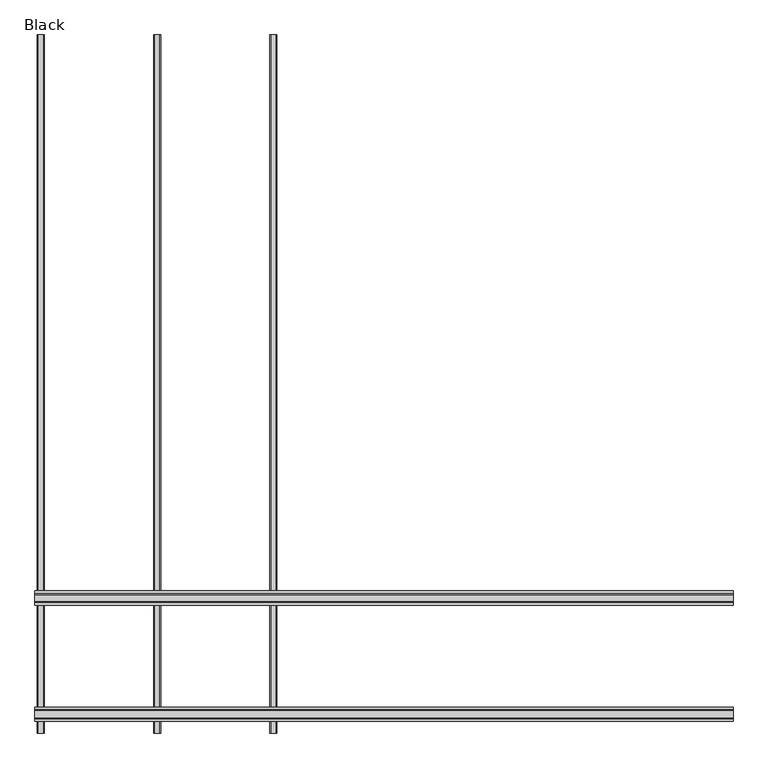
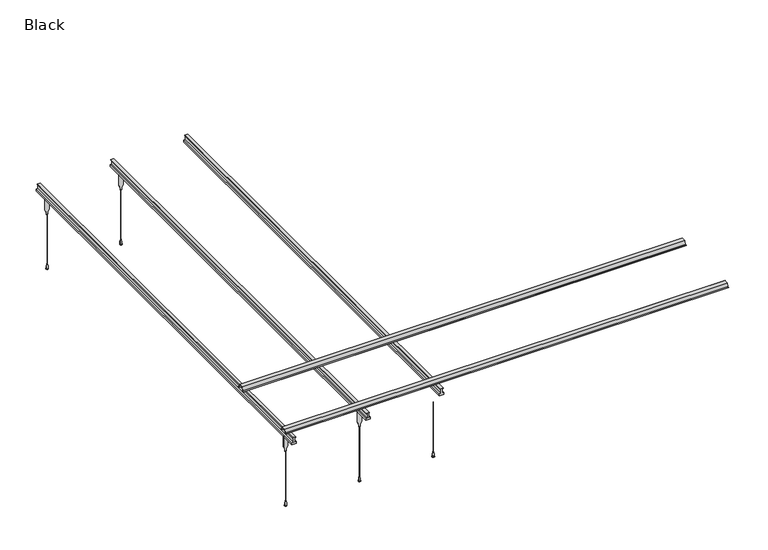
"""IFC4 building model written with IfcOpenShell, lengths in millimetres: proxy geometry, MountingTrack_Soffit_Modinex : Black."""

from ifc_helpers import new_model, si_unit, point, frame, frame_2d, origin, place, context, project, spatial, polyline, circle_curve, ellipse_curve, trimmed, segment, composite_curve, outline, extrude, source, transform, mapped, element, save
from ifc_brep_helpers import plane_surface, cylinder_surface, revolved_surface, advanced_brep


def black_515c670e(model_context):
    return source(origin(), model_context, "Body", "SolidModel", [
        advanced_brep(
        [(-477.0, -1400.0, 35.0), (-473.0, -1400.0, 35.0), (-475.0, -1400.0, 35.0), (-475.0, -1400.0, 0.0), (-466.9999996, -1400.0, 0.0), (-483.0000004, -1400.0, 0.0), (-466.9999996, -1400.0, 2.5000013), (-483.0000004, -1400.0, 2.5000013), (-470.5000002, -1400.0, 2.5000013), (-479.4999998, -1400.0, 2.5000013), (-470.5000002, -1400.0, 5.5), (-479.4999998, -1400.0, 5.5), (-468.9999999, -1400.0, 5.5), (-481.0000001, -1400.0, 5.5), (-472.0, -1400.0, 29.9999993), (-478.0, -1400.0, 29.9999993), (-473.0, -1400.0, 29.9999993), (-477.0, -1400.0, 29.9999993)],
        [
            (0, 1, circle_curve(frame((-475.0, -1400.0, 35.0), z_axis=(0.0, 0.0, 1.0), x_axis=(1.0, 0.0, 0.0)), 2.0)),
            (1, 2),
            (2, 0),
            (1, 0, circle_curve(frame((-475.0, -1400.0, 35.0), z_axis=(0.0, 0.0, 1.0), x_axis=(1.0, 0.0, 0.0)), 2.0)),
            (3, 4),
            (4, 5, circle_curve(frame((-475.0, -1400.0, 0.0), z_axis=(0.0, 0.0, -1.0), x_axis=(1.0, 0.0, 0.0)), 8.0000004)),
            (5, 3),
            (5, 4, circle_curve(frame((-475.0, -1400.0, 0.0), z_axis=(0.0, 0.0, -1.0), x_axis=(1.0, 0.0, 0.0)), 8.0000004)),
            (4, 6),
            (6, 7, circle_curve(frame((-475.0, -1400.0, 2.5000013), z_axis=(0.0, 0.0, -1.0), x_axis=(1.0, 0.0, 0.0)), 8.0000004)),
            (7, 5),
            (7, 6, circle_curve(frame((-475.0, -1400.0, 2.5000013), z_axis=(0.0, 0.0, -1.0), x_axis=(1.0, 0.0, 0.0)), 8.0000004)),
            (6, 8),
            (8, 9, circle_curve(frame((-475.0, -1400.0, 2.5000013), z_axis=(0.0, 0.0, -1.0), x_axis=(1.0, 0.0, 0.0)), 4.4999998)),
            (9, 7),
            (9, 8, circle_curve(frame((-475.0, -1400.0, 2.5000013), z_axis=(0.0, 0.0, -1.0), x_axis=(1.0, 0.0, 0.0)), 4.4999998)),
            (8, 10),
            (10, 11, circle_curve(frame((-475.0, -1400.0, 5.5), z_axis=(0.0, 0.0, -1.0), x_axis=(1.0, 0.0, 0.0)), 4.4999998)),
            (11, 9),
            (11, 10, circle_curve(frame((-475.0, -1400.0, 5.5), z_axis=(0.0, 0.0, -1.0), x_axis=(1.0, 0.0, 0.0)), 4.4999998)),
            (10, 12),
            (12, 13, circle_curve(frame((-475.0, -1400.0, 5.5), z_axis=(0.0, 0.0, -1.0), x_axis=(1.0, 0.0, 0.0)), 6.0000001)),
            (13, 11),
            (13, 12, circle_curve(frame((-475.0, -1400.0, 5.5), z_axis=(0.0, 0.0, -1.0), x_axis=(1.0, 0.0, 0.0)), 6.0000001)),
            (12, 14, circle_curve(frame((-570.5416345, -1400.0, 5.5000032), z_axis=(0.0, -1.0, 0.0), x_axis=(-1.0, 0.0, 0.0)), 101.5416345)),
            (14, 15, circle_curve(frame((-475.0, -1400.0, 29.9999993), z_axis=(0.0, 0.0, -1.0), x_axis=(1.0, 0.0, 0.0)), 3.0)),
            (15, 13, circle_curve(frame((-379.4583655, -1400.0, 5.5000032), z_axis=(0.0, -1.0, 0.0), x_axis=(1.0, 0.0, 0.0)), 101.5416345)),
            (15, 14, circle_curve(frame((-475.0, -1400.0, 29.9999993), z_axis=(0.0, 0.0, -1.0), x_axis=(1.0, 0.0, 0.0)), 3.0)),
            (14, 16),
            (16, 17, circle_curve(frame((-475.0, -1400.0, 29.9999993), z_axis=(0.0, 0.0, -1.0), x_axis=(1.0, 0.0, 0.0)), 2.0)),
            (17, 15),
            (17, 16, circle_curve(frame((-475.0, -1400.0, 29.9999993), z_axis=(0.0, 0.0, -1.0), x_axis=(1.0, 0.0, 0.0)), 2.0)),
            (16, 1),
            (0, 17),
        ],
        [
            plane_surface(frame((-475.0, -1400.0, 35.0), z_axis=(0.0, 0.0, 1.0), x_axis=(1.0, 0.0, 0.0))),
            plane_surface(frame((-475.0, -1400.0, 0.0), z_axis=(0.0, 0.0, -1.0), x_axis=(1.0, 0.0, 0.0))),
            cylinder_surface(frame((-475.0, -1400.0, -15.1208873), z_axis=(0.0, 0.0, -1.0), x_axis=(1.0, 0.0, 0.0)), 8.0000004),
            plane_surface(frame((-475.0, -1400.0, 2.5000013), z_axis=(0.0, 0.0, 1.0), x_axis=(1.0, 0.0, 0.0))),
            cylinder_surface(frame((-475.0, -1400.0, -15.1208873), z_axis=(0.0, 0.0, -1.0), x_axis=(1.0, 0.0, 0.0)), 4.4999998),
            plane_surface(frame((-475.0, -1400.0, 5.5), z_axis=(0.0, 0.0, -1.0), x_axis=(1.0, 0.0, 0.0))),
            revolved_surface(trimmed(ellipse_curve(frame((-570.5416345, -1400.0, 5.5000032), z_axis=(0.0, 1.0, 0.0), x_axis=(-1.0, 0.0, 0.0)), 101.5416345, 101.5416345), [point((-472.0, -1400.0, 29.9999993))], [point((-468.9999999, -1400.0, 5.5))], True, "CARTESIAN"), (-475.0, -1400.0, -15.1208873), (0.0, 0.0, -1.0)),
            plane_surface(frame((-475.0, -1400.0, 29.9999993), z_axis=(0.0, 0.0, 1.0), x_axis=(1.0, 0.0, 0.0))),
            cylinder_surface(frame((-475.0, -1400.0, -15.1208873), z_axis=(0.0, 0.0, -1.0), x_axis=(1.0, 0.0, 0.0)), 2.0),
        ],
        [
            (0, [[1, 2, 3]]),
            (0, [[4, -3, -2]]),
            (1, [[5, 6, 7]]),
            (1, [[-7, 8, -5]]),
            (2, [[-6, 9, 10, 11]]),
            (2, [[-8, -11, 12, -9]]),
            (3, [[-10, 13, 14, 15]]),
            (3, [[-12, -15, 16, -13]]),
            (4, [[-14, 17, 18, 19]]),
            (4, [[-16, -19, 20, -17]]),
            (5, [[-18, 21, 22, 23]]),
            (5, [[-20, -23, 24, -21]]),
            (6, [[-22, 25, 26, 27]]),
            (6, [[-24, -27, 28, -25]]),
            (7, [[-26, 29, 30, 31]]),
            (7, [[-28, -31, 32, -29]]),
            (8, [[-30, 33, -1, 34]]),
            (8, [[-32, -34, -4, -33]]),
        ],
    ),
        extrude(outline(composite_curve([segment(trimmed(circle_curve(frame_2d((-475.0, -1400.0)), 0.65), [point((-474.35, -1400.0))], [point((-475.65, -1400.0))], False, "CARTESIAN"), True, "CONTINUOUS"), segment(trimmed(circle_curve(frame_2d((-475.0, -1400.0)), 0.65), [point((-475.65, -1400.0))], [point((-474.35, -1400.0))], False, "CARTESIAN"), True, "CONTINUOUS")], self_intersect=False)), frame((0.0, 0.0, 35.0), z_axis=(0.0, 0.0, 1.0), x_axis=(1.0, 0.0, 0.0)), (0.0, 0.0, 1.0), 355.0),
        extrude(outline(polyline([(545.0, -465.0), (550.0, -465.0), (550.0, -485.0), (545.0, -485.0), (545.0, -480.0), (515.0, -480.0), (515.0, -490.0), (500.0, -490.0), (500.0, -460.0), (515.0, -460.0), (515.0, -470.0), (545.0, -470.0), (545.0, -465.0)])), frame((0.0, -1500.0, 0.0), z_axis=(0.0, 1.0, 0.0), x_axis=(0.0, 0.0, 1.0)), (0.0, 0.0, 1.0), 3000.0),
        extrude(outline(polyline([(-933.2890638, 574.0), (-904.7109362, 574.0), (-899.2109362, 551.0), (-888.0, 551.0), (-888.0, 550.0), (-900.0, 550.0), (-905.5, 573.0), (-932.5, 573.0), (-938.0, 550.0), (-950.0, 550.0), (-950.0, 551.0), (-938.7890638, 551.0), (-933.2890638, 574.0)])), frame((-1500.0, 0.0, 0.0), z_axis=(1.0, 0.0, 0.0), x_axis=(0.0, 1.0, 0.0)), (0.0, 0.0, 1.0), 3000.0),
        extrude(outline(polyline([(-1433.2890638, 574.0), (-1404.7109362, 574.0), (-1399.2109362, 551.0), (-1388.0, 551.0), (-1388.0, 550.0), (-1400.0, 550.0), (-1405.5, 573.0), (-1432.5, 573.0), (-1438.0, 550.0), (-1450.0, 550.0), (-1450.0, 551.0), (-1438.7890638, 551.0), (-1433.2890638, 574.0)])), frame((-1500.0, 0.0, 0.0), z_axis=(1.0, 0.0, 0.0), x_axis=(0.0, 1.0, 0.0)), (0.0, 0.0, 1.0), 3000.0),
        extrude(outline(polyline([(390.0, -970.0), (405.0, -970.0), (425.0, -960.0), (500.0, -960.0), (500.0, -990.0), (425.0, -990.0), (405.0, -980.0), (390.0, -980.0), (390.0, -970.0)])), frame((0.0, 1399.0, 0.0), z_axis=(0.0, 1.0, 0.0), x_axis=(0.0, 0.0, 1.0)), (0.0, 0.0, 1.0), 2.0),
        advanced_brep(
        [(-977.0, 1400.0, 35.0), (-973.0, 1400.0, 35.0), (-975.0, 1400.0, 35.0), (-975.0, 1400.0, 0.0), (-966.9999996, 1400.0, 0.0), (-983.0000004, 1400.0, 0.0), (-966.9999996, 1400.0, 2.5000013), (-983.0000004, 1400.0, 2.5000013), (-970.5000002, 1400.0, 2.5000013), (-979.4999998, 1400.0, 2.5000013), (-970.5000002, 1400.0, 5.5), (-979.4999998, 1400.0, 5.5), (-968.9999999, 1400.0, 5.5), (-981.0000001, 1400.0, 5.5), (-972.0, 1400.0, 29.9999993), (-978.0, 1400.0, 29.9999993), (-973.0, 1400.0, 29.9999993), (-977.0, 1400.0, 29.9999993)],
        [
            (0, 1, circle_curve(frame((-975.0, 1400.0, 35.0), z_axis=(0.0, 0.0, 1.0), x_axis=(1.0, 0.0, 0.0)), 2.0)),
            (1, 2),
            (2, 0),
            (1, 0, circle_curve(frame((-975.0, 1400.0, 35.0), z_axis=(0.0, 0.0, 1.0), x_axis=(1.0, 0.0, 0.0)), 2.0)),
            (3, 4),
            (4, 5, circle_curve(frame((-975.0, 1400.0, 0.0), z_axis=(0.0, 0.0, -1.0), x_axis=(1.0, 0.0, 0.0)), 8.0000004)),
            (5, 3),
            (5, 4, circle_curve(frame((-975.0, 1400.0, 0.0), z_axis=(0.0, 0.0, -1.0), x_axis=(1.0, 0.0, 0.0)), 8.0000004)),
            (4, 6),
            (6, 7, circle_curve(frame((-975.0, 1400.0, 2.5000013), z_axis=(0.0, 0.0, -1.0), x_axis=(1.0, 0.0, 0.0)), 8.0000004)),
            (7, 5),
            (7, 6, circle_curve(frame((-975.0, 1400.0, 2.5000013), z_axis=(0.0, 0.0, -1.0), x_axis=(1.0, 0.0, 0.0)), 8.0000004)),
            (6, 8),
            (8, 9, circle_curve(frame((-975.0, 1400.0, 2.5000013), z_axis=(0.0, 0.0, -1.0), x_axis=(1.0, 0.0, 0.0)), 4.4999998)),
            (9, 7),
            (9, 8, circle_curve(frame((-975.0, 1400.0, 2.5000013), z_axis=(0.0, 0.0, -1.0), x_axis=(1.0, 0.0, 0.0)), 4.4999998)),
            (8, 10),
            (10, 11, circle_curve(frame((-975.0, 1400.0, 5.5), z_axis=(0.0, 0.0, -1.0), x_axis=(1.0, 0.0, 0.0)), 4.4999998)),
            (11, 9),
            (11, 10, circle_curve(frame((-975.0, 1400.0, 5.5), z_axis=(0.0, 0.0, -1.0), x_axis=(1.0, 0.0, 0.0)), 4.4999998)),
            (10, 12),
            (12, 13, circle_curve(frame((-975.0, 1400.0, 5.5), z_axis=(0.0, 0.0, -1.0), x_axis=(1.0, 0.0, 0.0)), 6.0000001)),
            (13, 11),
            (13, 12, circle_curve(frame((-975.0, 1400.0, 5.5), z_axis=(0.0, 0.0, -1.0), x_axis=(1.0, 0.0, 0.0)), 6.0000001)),
            (12, 14, circle_curve(frame((-1070.5416345, 1400.0, 5.5000032), z_axis=(0.0, -1.0, 0.0), x_axis=(-1.0, 0.0, 0.0)), 101.5416345)),
            (14, 15, circle_curve(frame((-975.0, 1400.0, 29.9999993), z_axis=(0.0, 0.0, -1.0), x_axis=(1.0, 0.0, 0.0)), 3.0)),
            (15, 13, circle_curve(frame((-879.4583655, 1400.0, 5.5000032), z_axis=(0.0, -1.0, 0.0), x_axis=(1.0, 0.0, 0.0)), 101.5416345)),
            (15, 14, circle_curve(frame((-975.0, 1400.0, 29.9999993), z_axis=(0.0, 0.0, -1.0), x_axis=(1.0, 0.0, 0.0)), 3.0)),
            (14, 16),
            (16, 17, circle_curve(frame((-975.0, 1400.0, 29.9999993), z_axis=(0.0, 0.0, -1.0), x_axis=(1.0, 0.0, 0.0)), 2.0)),
            (17, 15),
            (17, 16, circle_curve(frame((-975.0, 1400.0, 29.9999993), z_axis=(0.0, 0.0, -1.0), x_axis=(1.0, 0.0, 0.0)), 2.0)),
            (16, 1),
            (0, 17),
        ],
        [
            plane_surface(frame((-975.0, 1400.0, 35.0), z_axis=(0.0, 0.0, 1.0), x_axis=(1.0, 0.0, 0.0))),
            plane_surface(frame((-975.0, 1400.0, 0.0), z_axis=(0.0, 0.0, -1.0), x_axis=(1.0, 0.0, 0.0))),
            cylinder_surface(frame((-975.0, 1400.0, -15.1208873), z_axis=(0.0, 0.0, -1.0), x_axis=(1.0, 0.0, 0.0)), 8.0000004),
            plane_surface(frame((-975.0, 1400.0, 2.5000013), z_axis=(0.0, 0.0, 1.0), x_axis=(1.0, 0.0, 0.0))),
            cylinder_surface(frame((-975.0, 1400.0, -15.1208873), z_axis=(0.0, 0.0, -1.0), x_axis=(1.0, 0.0, 0.0)), 4.4999998),
            plane_surface(frame((-975.0, 1400.0, 5.5), z_axis=(0.0, 0.0, -1.0), x_axis=(1.0, 0.0, 0.0))),
            revolved_surface(trimmed(ellipse_curve(frame((-1070.5416345, 1400.0, 5.5000032), z_axis=(0.0, 1.0, 0.0), x_axis=(-1.0, 0.0, 0.0)), 101.5416345, 101.5416345), [point((-972.0, 1400.0, 29.9999993))], [point((-968.9999999, 1400.0, 5.5))], True, "CARTESIAN"), (-975.0, 1400.0, -15.1208873), (0.0, 0.0, -1.0)),
            plane_surface(frame((-975.0, 1400.0, 29.9999993), z_axis=(0.0, 0.0, 1.0), x_axis=(1.0, 0.0, 0.0))),
            cylinder_surface(frame((-975.0, 1400.0, -15.1208873), z_axis=(0.0, 0.0, -1.0), x_axis=(1.0, 0.0, 0.0)), 2.0),
        ],
        [
            (0, [[1, 2, 3]]),
            (0, [[4, -3, -2]]),
            (1, [[5, 6, 7]]),
            (1, [[-7, 8, -5]]),
            (2, [[-6, 9, 10, 11]]),
            (2, [[-8, -11, 12, -9]]),
            (3, [[-10, 13, 14, 15]]),
            (3, [[-12, -15, 16, -13]]),
            (4, [[-14, 17, 18, 19]]),
            (4, [[-16, -19, 20, -17]]),
            (5, [[-18, 21, 22, 23]]),
            (5, [[-20, -23, 24, -21]]),
            (6, [[-22, 25, 26, 27]]),
            (6, [[-24, -27, 28, -25]]),
            (7, [[-26, 29, 30, 31]]),
            (7, [[-28, -31, 32, -29]]),
            (8, [[-30, 33, -1, 34]]),
            (8, [[-32, -34, -4, -33]]),
        ],
    ),
        extrude(outline(composite_curve([segment(trimmed(circle_curve(frame_2d((-975.0, 1400.0)), 0.65), [point((-974.35, 1400.0))], [point((-975.65, 1400.0))], False, "CARTESIAN"), True, "CONTINUOUS"), segment(trimmed(circle_curve(frame_2d((-975.0, 1400.0)), 0.65), [point((-975.65, 1400.0))], [point((-974.35, 1400.0))], False, "CARTESIAN"), True, "CONTINUOUS")], self_intersect=False)), frame((0.0, 0.0, 35.0), z_axis=(0.0, 0.0, 1.0), x_axis=(1.0, 0.0, 0.0)), (0.0, 0.0, 1.0), 355.0),
        extrude(outline(polyline([(390.0, -970.0), (405.0, -970.0), (425.0, -960.0), (500.0, -960.0), (500.0, -990.0), (425.0, -990.0), (405.0, -980.0), (390.0, -980.0), (390.0, -970.0)])), frame((0.0, -1401.0, 0.0), z_axis=(0.0, 1.0, 0.0), x_axis=(0.0, 0.0, 1.0)), (0.0, 0.0, 1.0), 2.0),
        advanced_brep(
        [(-977.0, -1400.0, 35.0), (-973.0, -1400.0, 35.0), (-975.0, -1400.0, 35.0), (-975.0, -1400.0, 0.0), (-966.9999996, -1400.0, 0.0), (-983.0000004, -1400.0, 0.0), (-966.9999996, -1400.0, 2.5000013), (-983.0000004, -1400.0, 2.5000013), (-970.5000002, -1400.0, 2.5000013), (-979.4999998, -1400.0, 2.5000013), (-970.5000002, -1400.0, 5.5), (-979.4999998, -1400.0, 5.5), (-968.9999999, -1400.0, 5.5), (-981.0000001, -1400.0, 5.5), (-972.0, -1400.0, 29.9999993), (-978.0, -1400.0, 29.9999993), (-973.0, -1400.0, 29.9999993), (-977.0, -1400.0, 29.9999993)],
        [
            (0, 1, circle_curve(frame((-975.0, -1400.0, 35.0), z_axis=(0.0, 0.0, 1.0), x_axis=(1.0, 0.0, 0.0)), 2.0)),
            (1, 2),
            (2, 0),
            (1, 0, circle_curve(frame((-975.0, -1400.0, 35.0), z_axis=(0.0, 0.0, 1.0), x_axis=(1.0, 0.0, 0.0)), 2.0)),
            (3, 4),
            (4, 5, circle_curve(frame((-975.0, -1400.0, 0.0), z_axis=(0.0, 0.0, -1.0), x_axis=(1.0, 0.0, 0.0)), 8.0000004)),
            (5, 3),
            (5, 4, circle_curve(frame((-975.0, -1400.0, 0.0), z_axis=(0.0, 0.0, -1.0), x_axis=(1.0, 0.0, 0.0)), 8.0000004)),
            (4, 6),
            (6, 7, circle_curve(frame((-975.0, -1400.0, 2.5000013), z_axis=(0.0, 0.0, -1.0), x_axis=(1.0, 0.0, 0.0)), 8.0000004)),
            (7, 5),
            (7, 6, circle_curve(frame((-975.0, -1400.0, 2.5000013), z_axis=(0.0, 0.0, -1.0), x_axis=(1.0, 0.0, 0.0)), 8.0000004)),
            (6, 8),
            (8, 9, circle_curve(frame((-975.0, -1400.0, 2.5000013), z_axis=(0.0, 0.0, -1.0), x_axis=(1.0, 0.0, 0.0)), 4.4999998)),
            (9, 7),
            (9, 8, circle_curve(frame((-975.0, -1400.0, 2.5000013), z_axis=(0.0, 0.0, -1.0), x_axis=(1.0, 0.0, 0.0)), 4.4999998)),
            (8, 10),
            (10, 11, circle_curve(frame((-975.0, -1400.0, 5.5), z_axis=(0.0, 0.0, -1.0), x_axis=(1.0, 0.0, 0.0)), 4.4999998)),
            (11, 9),
            (11, 10, circle_curve(frame((-975.0, -1400.0, 5.5), z_axis=(0.0, 0.0, -1.0), x_axis=(1.0, 0.0, 0.0)), 4.4999998)),
            (10, 12),
            (12, 13, circle_curve(frame((-975.0, -1400.0, 5.5), z_axis=(0.0, 0.0, -1.0), x_axis=(1.0, 0.0, 0.0)), 6.0000001)),
            (13, 11),
            (13, 12, circle_curve(frame((-975.0, -1400.0, 5.5), z_axis=(0.0, 0.0, -1.0), x_axis=(1.0, 0.0, 0.0)), 6.0000001)),
            (12, 14, circle_curve(frame((-1070.5416345, -1400.0, 5.5000032), z_axis=(0.0, -1.0, 0.0), x_axis=(-1.0, 0.0, 0.0)), 101.5416345)),
            (14, 15, circle_curve(frame((-975.0, -1400.0, 29.9999993), z_axis=(0.0, 0.0, -1.0), x_axis=(1.0, 0.0, 0.0)), 3.0)),
            (15, 13, circle_curve(frame((-879.4583655, -1400.0, 5.5000032), z_axis=(0.0, -1.0, 0.0), x_axis=(1.0, 0.0, 0.0)), 101.5416345)),
            (15, 14, circle_curve(frame((-975.0, -1400.0, 29.9999993), z_axis=(0.0, 0.0, -1.0), x_axis=(1.0, 0.0, 0.0)), 3.0)),
            (14, 16),
            (16, 17, circle_curve(frame((-975.0, -1400.0, 29.9999993), z_axis=(0.0, 0.0, -1.0), x_axis=(1.0, 0.0, 0.0)), 2.0)),
            (17, 15),
            (17, 16, circle_curve(frame((-975.0, -1400.0, 29.9999993), z_axis=(0.0, 0.0, -1.0), x_axis=(1.0, 0.0, 0.0)), 2.0)),
            (16, 1),
            (0, 17),
        ],
        [
            plane_surface(frame((-975.0, -1400.0, 35.0), z_axis=(0.0, 0.0, 1.0), x_axis=(1.0, 0.0, 0.0))),
            plane_surface(frame((-975.0, -1400.0, 0.0), z_axis=(0.0, 0.0, -1.0), x_axis=(1.0, 0.0, 0.0))),
            cylinder_surface(frame((-975.0, -1400.0, -15.1208873), z_axis=(0.0, 0.0, -1.0), x_axis=(1.0, 0.0, 0.0)), 8.0000004),
            plane_surface(frame((-975.0, -1400.0, 2.5000013), z_axis=(0.0, 0.0, 1.0), x_axis=(1.0, 0.0, 0.0))),
            cylinder_surface(frame((-975.0, -1400.0, -15.1208873), z_axis=(0.0, 0.0, -1.0), x_axis=(1.0, 0.0, 0.0)), 4.4999998),
            plane_surface(frame((-975.0, -1400.0, 5.5), z_axis=(0.0, 0.0, -1.0), x_axis=(1.0, 0.0, 0.0))),
            revolved_surface(trimmed(ellipse_curve(frame((-1070.5416345, -1400.0, 5.5000032), z_axis=(0.0, 1.0, 0.0), x_axis=(-1.0, 0.0, 0.0)), 101.5416345, 101.5416345), [point((-972.0, -1400.0, 29.9999993))], [point((-968.9999999, -1400.0, 5.5))], True, "CARTESIAN"), (-975.0, -1400.0, -15.1208873), (0.0, 0.0, -1.0)),
            plane_surface(frame((-975.0, -1400.0, 29.9999993), z_axis=(0.0, 0.0, 1.0), x_axis=(1.0, 0.0, 0.0))),
            cylinder_surface(frame((-975.0, -1400.0, -15.1208873), z_axis=(0.0, 0.0, -1.0), x_axis=(1.0, 0.0, 0.0)), 2.0),
        ],
        [
            (0, [[1, 2, 3]]),
            (0, [[4, -3, -2]]),
            (1, [[5, 6, 7]]),
            (1, [[-7, 8, -5]]),
            (2, [[-6, 9, 10, 11]]),
            (2, [[-8, -11, 12, -9]]),
            (3, [[-10, 13, 14, 15]]),
            (3, [[-12, -15, 16, -13]]),
            (4, [[-14, 17, 18, 19]]),
            (4, [[-16, -19, 20, -17]]),
            (5, [[-18, 21, 22, 23]]),
            (5, [[-20, -23, 24, -21]]),
            (6, [[-22, 25, 26, 27]]),
            (6, [[-24, -27, 28, -25]]),
            (7, [[-26, 29, 30, 31]]),
            (7, [[-28, -31, 32, -29]]),
            (8, [[-30, 33, -1, 34]]),
            (8, [[-32, -34, -4, -33]]),
        ],
    ),
        extrude(outline(composite_curve([segment(trimmed(circle_curve(frame_2d((-975.0, -1400.0)), 0.65), [point((-974.35, -1400.0))], [point((-975.65, -1400.0))], False, "CARTESIAN"), True, "CONTINUOUS"), segment(trimmed(circle_curve(frame_2d((-975.0, -1400.0)), 0.65), [point((-975.65, -1400.0))], [point((-974.35, -1400.0))], False, "CARTESIAN"), True, "CONTINUOUS")], self_intersect=False)), frame((0.0, 0.0, 35.0), z_axis=(0.0, 0.0, 1.0), x_axis=(1.0, 0.0, 0.0)), (0.0, 0.0, 1.0), 355.0),
        extrude(outline(polyline([(545.0, -965.0), (550.0, -965.0), (550.0, -985.0), (545.0, -985.0), (545.0, -980.0), (515.0, -980.0), (515.0, -990.0), (500.0, -990.0), (500.0, -960.0), (515.0, -960.0), (515.0, -970.0), (545.0, -970.0), (545.0, -965.0)])), frame((0.0, -1500.0, 0.0), z_axis=(0.0, 1.0, 0.0), x_axis=(0.0, 0.0, 1.0)), (0.0, 0.0, 1.0), 3000.0),
        extrude(outline(polyline([(390.0, -1470.0), (405.0, -1470.0), (425.0, -1460.0), (500.0, -1460.0), (500.0, -1490.0), (425.0, -1490.0), (405.0, -1480.0), (390.0, -1480.0), (390.0, -1470.0)])), frame((0.0, 1399.0, 0.0), z_axis=(0.0, 1.0, 0.0), x_axis=(0.0, 0.0, 1.0)), (0.0, 0.0, 1.0), 2.0),
        advanced_brep(
        [(-1477.0, 1400.0, 35.0), (-1473.0, 1400.0, 35.0), (-1475.0, 1400.0, 35.0), (-1475.0, 1400.0, 0.0), (-1466.9999996, 1400.0, 0.0), (-1483.0000004, 1400.0, 0.0), (-1466.9999996, 1400.0, 2.5000013), (-1483.0000004, 1400.0, 2.5000013), (-1470.5000002, 1400.0, 2.5000013), (-1479.4999998, 1400.0, 2.5000013), (-1470.5000002, 1400.0, 5.5), (-1479.4999998, 1400.0, 5.5), (-1468.9999999, 1400.0, 5.5), (-1481.0000001, 1400.0, 5.5), (-1472.0, 1400.0, 29.9999993), (-1478.0, 1400.0, 29.9999993), (-1473.0, 1400.0, 29.9999993), (-1477.0, 1400.0, 29.9999993)],
        [
            (0, 1, circle_curve(frame((-1475.0, 1400.0, 35.0), z_axis=(0.0, 0.0, 1.0), x_axis=(1.0, 0.0, 0.0)), 2.0)),
            (1, 2),
            (2, 0),
            (1, 0, circle_curve(frame((-1475.0, 1400.0, 35.0), z_axis=(0.0, 0.0, 1.0), x_axis=(1.0, 0.0, 0.0)), 2.0)),
            (3, 4),
            (4, 5, circle_curve(frame((-1475.0, 1400.0, 0.0), z_axis=(0.0, 0.0, -1.0), x_axis=(1.0, 0.0, 0.0)), 8.0000004)),
            (5, 3),
            (5, 4, circle_curve(frame((-1475.0, 1400.0, 0.0), z_axis=(0.0, 0.0, -1.0), x_axis=(1.0, 0.0, 0.0)), 8.0000004)),
            (4, 6),
            (6, 7, circle_curve(frame((-1475.0, 1400.0, 2.5000013), z_axis=(0.0, 0.0, -1.0), x_axis=(1.0, 0.0, 0.0)), 8.0000004)),
            (7, 5),
            (7, 6, circle_curve(frame((-1475.0, 1400.0, 2.5000013), z_axis=(0.0, 0.0, -1.0), x_axis=(1.0, 0.0, 0.0)), 8.0000004)),
            (6, 8),
            (8, 9, circle_curve(frame((-1475.0, 1400.0, 2.5000013), z_axis=(0.0, 0.0, -1.0), x_axis=(1.0, 0.0, 0.0)), 4.4999998)),
            (9, 7),
            (9, 8, circle_curve(frame((-1475.0, 1400.0, 2.5000013), z_axis=(0.0, 0.0, -1.0), x_axis=(1.0, 0.0, 0.0)), 4.4999998)),
            (8, 10),
            (10, 11, circle_curve(frame((-1475.0, 1400.0, 5.5), z_axis=(0.0, 0.0, -1.0), x_axis=(1.0, 0.0, 0.0)), 4.4999998)),
            (11, 9),
            (11, 10, circle_curve(frame((-1475.0, 1400.0, 5.5), z_axis=(0.0, 0.0, -1.0), x_axis=(1.0, 0.0, 0.0)), 4.4999998)),
            (10, 12),
            (12, 13, circle_curve(frame((-1475.0, 1400.0, 5.5), z_axis=(0.0, 0.0, -1.0), x_axis=(1.0, 0.0, 0.0)), 6.0000001)),
            (13, 11),
            (13, 12, circle_curve(frame((-1475.0, 1400.0, 5.5), z_axis=(0.0, 0.0, -1.0), x_axis=(1.0, 0.0, 0.0)), 6.0000001)),
            (12, 14, circle_curve(frame((-1570.5416345, 1400.0, 5.5000032), z_axis=(0.0, -1.0, 0.0), x_axis=(-1.0, 0.0, 0.0)), 101.5416345)),
            (14, 15, circle_curve(frame((-1475.0, 1400.0, 29.9999993), z_axis=(0.0, 0.0, -1.0), x_axis=(1.0, 0.0, 0.0)), 3.0)),
            (15, 13, circle_curve(frame((-1379.4583655, 1400.0, 5.5000032), z_axis=(0.0, -1.0, 0.0), x_axis=(1.0, 0.0, 0.0)), 101.5416345)),
            (15, 14, circle_curve(frame((-1475.0, 1400.0, 29.9999993), z_axis=(0.0, 0.0, -1.0), x_axis=(1.0, 0.0, 0.0)), 3.0)),
            (14, 16),
            (16, 17, circle_curve(frame((-1475.0, 1400.0, 29.9999993), z_axis=(0.0, 0.0, -1.0), x_axis=(1.0, 0.0, 0.0)), 2.0)),
            (17, 15),
            (17, 16, circle_curve(frame((-1475.0, 1400.0, 29.9999993), z_axis=(0.0, 0.0, -1.0), x_axis=(1.0, 0.0, 0.0)), 2.0)),
            (16, 1),
            (0, 17),
        ],
        [
            plane_surface(frame((-1475.0, 1400.0, 35.0), z_axis=(0.0, 0.0, 1.0), x_axis=(1.0, 0.0, 0.0))),
            plane_surface(frame((-1475.0, 1400.0, 0.0), z_axis=(0.0, 0.0, -1.0), x_axis=(1.0, 0.0, 0.0))),
            cylinder_surface(frame((-1475.0, 1400.0, -15.1208873), z_axis=(0.0, 0.0, -1.0), x_axis=(1.0, 0.0, 0.0)), 8.0000004),
            plane_surface(frame((-1475.0, 1400.0, 2.5000013), z_axis=(0.0, 0.0, 1.0), x_axis=(1.0, 0.0, 0.0))),
            cylinder_surface(frame((-1475.0, 1400.0, -15.1208873), z_axis=(0.0, 0.0, -1.0), x_axis=(1.0, 0.0, 0.0)), 4.4999998),
            plane_surface(frame((-1475.0, 1400.0, 5.5), z_axis=(0.0, 0.0, -1.0), x_axis=(1.0, 0.0, 0.0))),
            revolved_surface(trimmed(ellipse_curve(frame((-1570.5416345, 1400.0, 5.5000032), z_axis=(0.0, 1.0, 0.0), x_axis=(-1.0, 0.0, 0.0)), 101.5416345, 101.5416345), [point((-1472.0, 1400.0, 29.9999993))], [point((-1468.9999999, 1400.0, 5.5))], True, "CARTESIAN"), (-1475.0, 1400.0, -15.1208873), (0.0, 0.0, -1.0)),
            plane_surface(frame((-1475.0, 1400.0, 29.9999993), z_axis=(0.0, 0.0, 1.0), x_axis=(1.0, 0.0, 0.0))),
            cylinder_surface(frame((-1475.0, 1400.0, -15.1208873), z_axis=(0.0, 0.0, -1.0), x_axis=(1.0, 0.0, 0.0)), 2.0),
        ],
        [
            (0, [[1, 2, 3]]),
            (0, [[4, -3, -2]]),
            (1, [[5, 6, 7]]),
            (1, [[-7, 8, -5]]),
            (2, [[-6, 9, 10, 11]]),
            (2, [[-8, -11, 12, -9]]),
            (3, [[-10, 13, 14, 15]]),
            (3, [[-12, -15, 16, -13]]),
            (4, [[-14, 17, 18, 19]]),
            (4, [[-16, -19, 20, -17]]),
            (5, [[-18, 21, 22, 23]]),
            (5, [[-20, -23, 24, -21]]),
            (6, [[-22, 25, 26, 27]]),
            (6, [[-24, -27, 28, -25]]),
            (7, [[-26, 29, 30, 31]]),
            (7, [[-28, -31, 32, -29]]),
            (8, [[-30, 33, -1, 34]]),
            (8, [[-32, -34, -4, -33]]),
        ],
    ),
        extrude(outline(composite_curve([segment(trimmed(circle_curve(frame_2d((-1475.0, 1400.0)), 0.65), [point((-1474.35, 1400.0))], [point((-1475.65, 1400.0))], False, "CARTESIAN"), True, "CONTINUOUS"), segment(trimmed(circle_curve(frame_2d((-1475.0, 1400.0)), 0.65), [point((-1475.65, 1400.0))], [point((-1474.35, 1400.0))], False, "CARTESIAN"), True, "CONTINUOUS")], self_intersect=False)), frame((0.0, 0.0, 35.0), z_axis=(0.0, 0.0, 1.0), x_axis=(1.0, 0.0, 0.0)), (0.0, 0.0, 1.0), 355.0),
        extrude(outline(polyline([(390.0, -1470.0), (405.0, -1470.0), (425.0, -1460.0), (500.0, -1460.0), (500.0, -1490.0), (425.0, -1490.0), (405.0, -1480.0), (390.0, -1480.0), (390.0, -1470.0)])), frame((0.0, -1401.0, 0.0), z_axis=(0.0, 1.0, 0.0), x_axis=(0.0, 0.0, 1.0)), (0.0, 0.0, 1.0), 2.0),
        advanced_brep(
        [(-1477.0, -1400.0, 35.0), (-1473.0, -1400.0, 35.0), (-1475.0, -1400.0, 35.0), (-1475.0, -1400.0, 0.0), (-1466.9999996, -1400.0, 0.0), (-1483.0000004, -1400.0, 0.0), (-1466.9999996, -1400.0, 2.5000013), (-1483.0000004, -1400.0, 2.5000013), (-1470.5000002, -1400.0, 2.5000013), (-1479.4999998, -1400.0, 2.5000013), (-1470.5000002, -1400.0, 5.5), (-1479.4999998, -1400.0, 5.5), (-1468.9999999, -1400.0, 5.5), (-1481.0000001, -1400.0, 5.5), (-1472.0, -1400.0, 29.9999993), (-1478.0, -1400.0, 29.9999993), (-1473.0, -1400.0, 29.9999993), (-1477.0, -1400.0, 29.9999993)],
        [
            (0, 1, circle_curve(frame((-1475.0, -1400.0, 35.0), z_axis=(0.0, 0.0, 1.0), x_axis=(1.0, 0.0, 0.0)), 2.0)),
            (1, 2),
            (2, 0),
            (1, 0, circle_curve(frame((-1475.0, -1400.0, 35.0), z_axis=(0.0, 0.0, 1.0), x_axis=(1.0, 0.0, 0.0)), 2.0)),
            (3, 4),
            (4, 5, circle_curve(frame((-1475.0, -1400.0, 0.0), z_axis=(0.0, 0.0, -1.0), x_axis=(1.0, 0.0, 0.0)), 8.0000004)),
            (5, 3),
            (5, 4, circle_curve(frame((-1475.0, -1400.0, 0.0), z_axis=(0.0, 0.0, -1.0), x_axis=(1.0, 0.0, 0.0)), 8.0000004)),
            (4, 6),
            (6, 7, circle_curve(frame((-1475.0, -1400.0, 2.5000013), z_axis=(0.0, 0.0, -1.0), x_axis=(1.0, 0.0, 0.0)), 8.0000004)),
            (7, 5),
            (7, 6, circle_curve(frame((-1475.0, -1400.0, 2.5000013), z_axis=(0.0, 0.0, -1.0), x_axis=(1.0, 0.0, 0.0)), 8.0000004)),
            (6, 8),
            (8, 9, circle_curve(frame((-1475.0, -1400.0, 2.5000013), z_axis=(0.0, 0.0, -1.0), x_axis=(1.0, 0.0, 0.0)), 4.4999998)),
            (9, 7),
            (9, 8, circle_curve(frame((-1475.0, -1400.0, 2.5000013), z_axis=(0.0, 0.0, -1.0), x_axis=(1.0, 0.0, 0.0)), 4.4999998)),
            (8, 10),
            (10, 11, circle_curve(frame((-1475.0, -1400.0, 5.5), z_axis=(0.0, 0.0, -1.0), x_axis=(1.0, 0.0, 0.0)), 4.4999998)),
            (11, 9),
            (11, 10, circle_curve(frame((-1475.0, -1400.0, 5.5), z_axis=(0.0, 0.0, -1.0), x_axis=(1.0, 0.0, 0.0)), 4.4999998)),
            (10, 12),
            (12, 13, circle_curve(frame((-1475.0, -1400.0, 5.5), z_axis=(0.0, 0.0, -1.0), x_axis=(1.0, 0.0, 0.0)), 6.0000001)),
            (13, 11),
            (13, 12, circle_curve(frame((-1475.0, -1400.0, 5.5), z_axis=(0.0, 0.0, -1.0), x_axis=(1.0, 0.0, 0.0)), 6.0000001)),
            (12, 14, circle_curve(frame((-1570.5416345, -1400.0, 5.5000032), z_axis=(0.0, -1.0, 0.0), x_axis=(-1.0, 0.0, 0.0)), 101.5416345)),
            (14, 15, circle_curve(frame((-1475.0, -1400.0, 29.9999993), z_axis=(0.0, 0.0, -1.0), x_axis=(1.0, 0.0, 0.0)), 3.0)),
            (15, 13, circle_curve(frame((-1379.4583655, -1400.0, 5.5000032), z_axis=(0.0, -1.0, 0.0), x_axis=(1.0, 0.0, 0.0)), 101.5416345)),
            (15, 14, circle_curve(frame((-1475.0, -1400.0, 29.9999993), z_axis=(0.0, 0.0, -1.0), x_axis=(1.0, 0.0, 0.0)), 3.0)),
            (14, 16),
            (16, 17, circle_curve(frame((-1475.0, -1400.0, 29.9999993), z_axis=(0.0, 0.0, -1.0), x_axis=(1.0, 0.0, 0.0)), 2.0)),
            (17, 15),
            (17, 16, circle_curve(frame((-1475.0, -1400.0, 29.9999993), z_axis=(0.0, 0.0, -1.0), x_axis=(1.0, 0.0, 0.0)), 2.0)),
            (16, 1),
            (0, 17),
        ],
        [
            plane_surface(frame((-1475.0, -1400.0, 35.0), z_axis=(0.0, 0.0, 1.0), x_axis=(1.0, 0.0, 0.0))),
            plane_surface(frame((-1475.0, -1400.0, 0.0), z_axis=(0.0, 0.0, -1.0), x_axis=(1.0, 0.0, 0.0))),
            cylinder_surface(frame((-1475.0, -1400.0, -15.1208873), z_axis=(0.0, 0.0, -1.0), x_axis=(1.0, 0.0, 0.0)), 8.0000004),
            plane_surface(frame((-1475.0, -1400.0, 2.5000013), z_axis=(0.0, 0.0, 1.0), x_axis=(1.0, 0.0, 0.0))),
            cylinder_surface(frame((-1475.0, -1400.0, -15.1208873), z_axis=(0.0, 0.0, -1.0), x_axis=(1.0, 0.0, 0.0)), 4.4999998),
            plane_surface(frame((-1475.0, -1400.0, 5.5), z_axis=(0.0, 0.0, -1.0), x_axis=(1.0, 0.0, 0.0))),
            revolved_surface(trimmed(ellipse_curve(frame((-1570.5416345, -1400.0, 5.5000032), z_axis=(0.0, 1.0, 0.0), x_axis=(-1.0, 0.0, 0.0)), 101.5416345, 101.5416345), [point((-1472.0, -1400.0, 29.9999993))], [point((-1468.9999999, -1400.0, 5.5))], True, "CARTESIAN"), (-1475.0, -1400.0, -15.1208873), (0.0, 0.0, -1.0)),
            plane_surface(frame((-1475.0, -1400.0, 29.9999993), z_axis=(0.0, 0.0, 1.0), x_axis=(1.0, 0.0, 0.0))),
            cylinder_surface(frame((-1475.0, -1400.0, -15.1208873), z_axis=(0.0, 0.0, -1.0), x_axis=(1.0, 0.0, 0.0)), 2.0),
        ],
        [
            (0, [[1, 2, 3]]),
            (0, [[4, -3, -2]]),
            (1, [[5, 6, 7]]),
            (1, [[-7, 8, -5]]),
            (2, [[-6, 9, 10, 11]]),
            (2, [[-8, -11, 12, -9]]),
            (3, [[-10, 13, 14, 15]]),
            (3, [[-12, -15, 16, -13]]),
            (4, [[-14, 17, 18, 19]]),
            (4, [[-16, -19, 20, -17]]),
            (5, [[-18, 21, 22, 23]]),
            (5, [[-20, -23, 24, -21]]),
            (6, [[-22, 25, 26, 27]]),
            (6, [[-24, -27, 28, -25]]),
            (7, [[-26, 29, 30, 31]]),
            (7, [[-28, -31, 32, -29]]),
            (8, [[-30, 33, -1, 34]]),
            (8, [[-32, -34, -4, -33]]),
        ],
    ),
        extrude(outline(composite_curve([segment(trimmed(circle_curve(frame_2d((-1475.0, -1400.0)), 0.65), [point((-1474.35, -1400.0))], [point((-1475.65, -1400.0))], False, "CARTESIAN"), True, "CONTINUOUS"), segment(trimmed(circle_curve(frame_2d((-1475.0, -1400.0)), 0.65), [point((-1475.65, -1400.0))], [point((-1474.35, -1400.0))], False, "CARTESIAN"), True, "CONTINUOUS")], self_intersect=False)), frame((0.0, 0.0, 35.0), z_axis=(0.0, 0.0, 1.0), x_axis=(1.0, 0.0, 0.0)), (0.0, 0.0, 1.0), 355.0),
        extrude(outline(polyline([(545.0, -1465.0), (550.0, -1465.0), (550.0, -1485.0), (545.0, -1485.0), (545.0, -1480.0), (515.0, -1480.0), (515.0, -1490.0), (500.0, -1490.0), (500.0, -1460.0), (515.0, -1460.0), (515.0, -1470.0), (545.0, -1470.0), (545.0, -1465.0)])), frame((0.0, -1500.0, 0.0), z_axis=(0.0, 1.0, 0.0), x_axis=(0.0, 0.0, 1.0)), (0.0, 0.0, 1.0), 3000.0),
    ])


if __name__ == "__main__":
    model = new_model("IFC4")
    model_context = context("Model", 3, world=origin())
    ifc_project = project(units=[si_unit("LENGTHUNIT", "METRE", prefix="MILLI")], contexts=[model_context])
    site = spatial("IfcSite", under=ifc_project)
    building = spatial("IfcBuilding", under=site)
    placement = place(None, origin())
    black_shape = black_515c670e(model_context)
    element("IfcBuildingElementProxy", 1, Name="MountingTrack_Soffit_Modinex : Black", ObjectType="MountingTrack_Soffit_Modinex : Black", at=placement, inside=building, context=model_context, shape_type="MappedRepresentation", body=[
        mapped(black_shape, transform((0.0, 0.0, 0.0), x_axis=(1.0, 0.0, 0.0), y_axis=(0.0, 1.0, 0.0), z_axis=(0.0, 0.0, 1.0))),
    ])
    save(model, "model.ifc")
